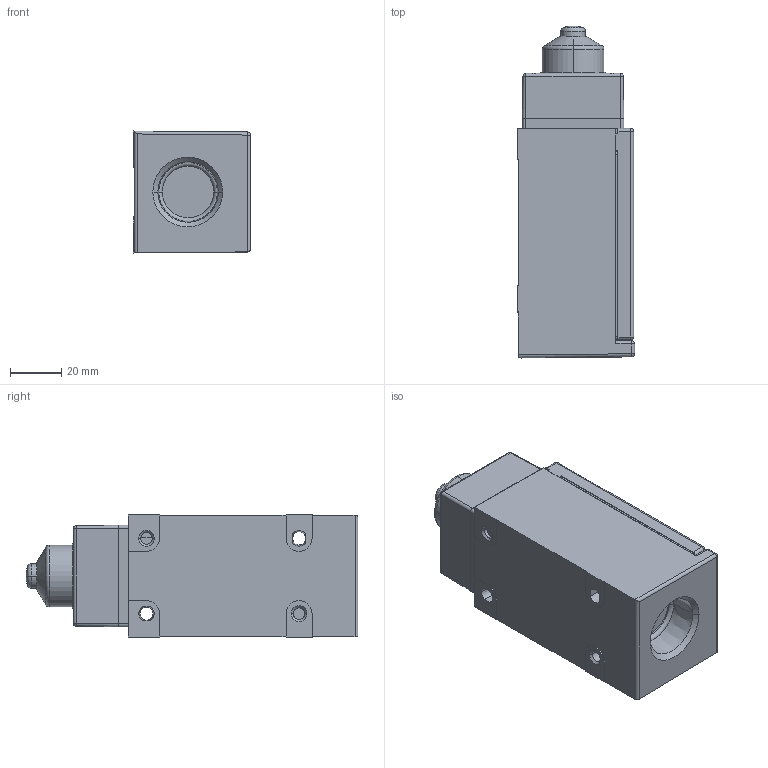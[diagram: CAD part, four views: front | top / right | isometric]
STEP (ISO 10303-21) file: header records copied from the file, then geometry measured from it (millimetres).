
FILE_DESCRIPTION((''),'2;1');
FILE_NAME('LSC4L_SW','2012-12-06T',('E522935'),(''),'PRO/ENGINEER BY PARAMETRIC TECHNOLOGY CORPORATION, 2009460','PRO/ENGINEER BY PARAMETRIC TECHNOLOGY CORPORATION, 2009460','');
FILE_SCHEMA(('CONFIG_CONTROL_DESIGN'));
Length unit declared in the file: inch
Products named in the file (1): LSC4L_SW
Bounding box: 45.72 x 129.55 x 47.62 mm (x, y, z)
Volume: 218053.8 mm3; surface area: 30028.7 mm2
Topology: 1 solids, 2 shells, 442 faces, 1085 edges, 660 vertices
Faces by surface type: plane 240, cylinder 137, cone 30, sphere 25, torus 8, bspline 2
Entity records: 13848 total; most frequent: CARTESIAN_POINT 3245, DIRECTION 2291, ORIENTED_EDGE 2166, EDGE_CURVE 1083, AXIS2_PLACEMENT_3D 837, VERTEX_POINT 660, VECTOR 617, LINE 617
